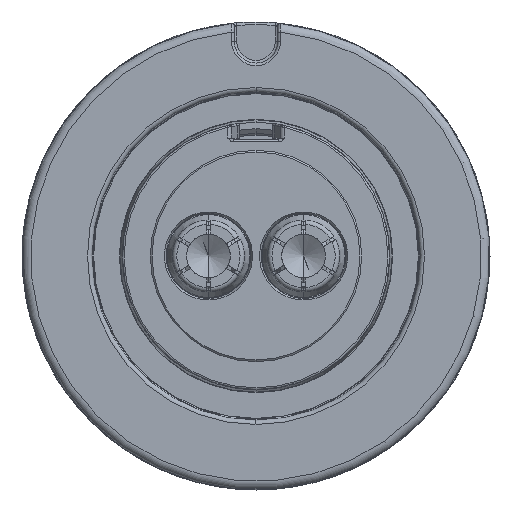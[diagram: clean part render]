
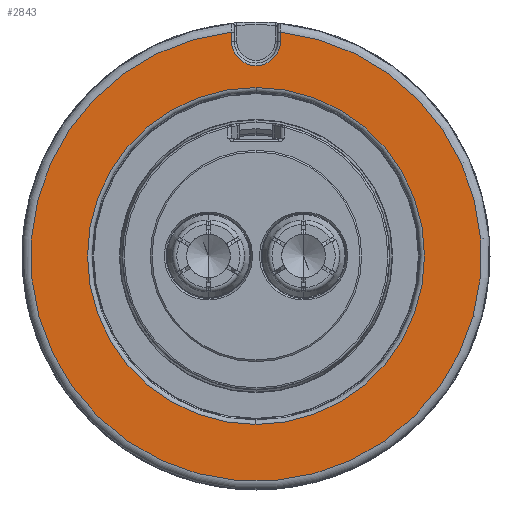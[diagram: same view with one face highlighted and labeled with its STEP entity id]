
A CAD part, front view. The second image highlights one B-rep face of the part: STEP entity #2843.
In plain terms, the highlighted planar face has unit normal (0, -1, 0).
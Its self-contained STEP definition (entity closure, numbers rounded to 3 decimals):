
#225=CARTESIAN_POINT('',(0.,14.5,0.));
#226=DIRECTION('',(0.,-1.,0.));
#227=DIRECTION('',(-0.109,0.,0.994));
#228=AXIS2_PLACEMENT_3D('',#225,#226,#227);
#246=CARTESIAN_POINT('',(0.,14.5,0.));
#247=DIRECTION('',(0.,-1.,0.));
#248=DIRECTION('',(0.,0.,-1.));
#249=AXIS2_PLACEMENT_3D('',#246,#247,#248);
#251=CARTESIAN_POINT('',(0.,14.5,0.));
#252=DIRECTION('',(0.,-1.,0.));
#253=DIRECTION('',(0.,0.,1.));
#254=AXIS2_PLACEMENT_3D('',#251,#252,#253);
#256=DIRECTION('',(0.,0.,-1.));
#257=VECTOR('',#256,1.048);
#258=CARTESIAN_POINT('',(2.8,14.5,25.648));
#259=LINE('',#258,#257);
#260=DIRECTION('',(0.,0.,1.));
#261=VECTOR('',#260,1.048);
#262=CARTESIAN_POINT('',(-2.8,14.5,24.6));
#263=LINE('',#262,#261);
#264=CARTESIAN_POINT('',(0.,14.5,24.6));
#265=DIRECTION('',(0.,1.,0.));
#266=DIRECTION('',(1.,0.,0.));
#267=AXIS2_PLACEMENT_3D('',#264,#265,#266);
#2317=CARTESIAN_POINT('',(2.8,14.5,25.648));
#2318=CARTESIAN_POINT('',(2.8,14.5,24.6));
#2319=VERTEX_POINT('',#2317);
#2320=VERTEX_POINT('',#2318);
#2325=CARTESIAN_POINT('',(-2.8,14.5,25.648));
#2326=VERTEX_POINT('',#2325);
#2445=CARTESIAN_POINT('',(0.,14.5,-19.3));
#2446=CARTESIAN_POINT('',(0.,14.5,19.3));
#2447=VERTEX_POINT('',#2445);
#2448=VERTEX_POINT('',#2446);
#2513=CARTESIAN_POINT('',(-2.8,14.5,24.6));
#2514=VERTEX_POINT('',#2513);
#2823=CARTESIAN_POINT('',(0.,14.5,0.));
#2824=DIRECTION('',(0.,1.,0.));
#2825=DIRECTION('',(0.,0.,-1.));
#2826=AXIS2_PLACEMENT_3D('',#2823,#2824,#2825);
#2827=PLANE('',#2826);
#2829=ORIENTED_EDGE('',*,*,#2828,.F.);
#2830=ORIENTED_EDGE('',*,*,#2809,.F.);
#2832=ORIENTED_EDGE('',*,*,#2831,.F.);
#2834=ORIENTED_EDGE('',*,*,#2833,.F.);
#2835=EDGE_LOOP('',(#2829,#2830,#2832,#2834));
#2836=FACE_OUTER_BOUND('',#2835,.F.);
#2838=ORIENTED_EDGE('',*,*,#2837,.T.);
#2840=ORIENTED_EDGE('',*,*,#2839,.T.);
#2841=EDGE_LOOP('',(#2838,#2840));
#2842=FACE_BOUND('',#2841,.F.);
#229=CIRCLE('',#228,25.8);
#250=CIRCLE('',#249,19.3);
#255=CIRCLE('',#254,19.3);
#268=CIRCLE('',#267,2.8);
#2809=EDGE_CURVE('',#2326,#2319,#229,.T.);
#2828=EDGE_CURVE('',#2319,#2320,#259,.T.);
#2831=EDGE_CURVE('',#2514,#2326,#263,.T.);
#2833=EDGE_CURVE('',#2320,#2514,#268,.T.);
#2837=EDGE_CURVE('',#2447,#2448,#250,.T.);
#2839=EDGE_CURVE('',#2448,#2447,#255,.T.);
#2843=ADVANCED_FACE('',(#2836,#2842),#2827,.F.);
